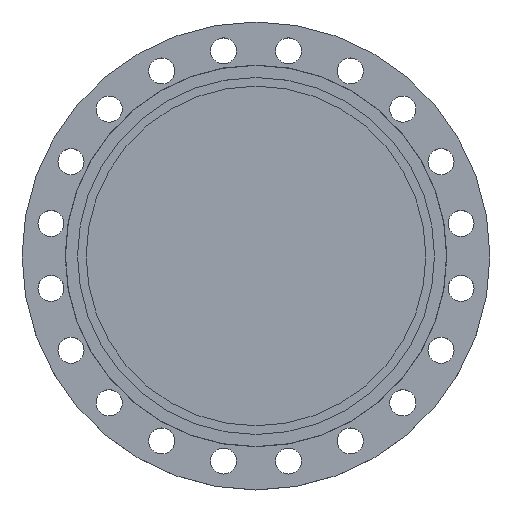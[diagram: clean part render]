
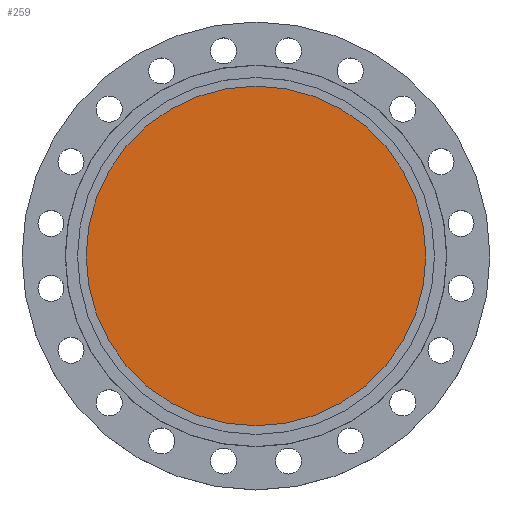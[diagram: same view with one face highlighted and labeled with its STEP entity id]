
A CAD part, top view. The second image highlights one B-rep face of the part: STEP entity #259.
In plain terms, the highlighted planar face has unit normal (0, 0, 1).
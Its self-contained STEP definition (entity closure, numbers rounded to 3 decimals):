
#192 = EDGE_CURVE ( 'NONE', #1786, #1806, #917, .T. ) ;
#247 = CARTESIAN_POINT ( 'NONE',  ( 274., 0., 0. ) ) ;
#259 = ADVANCED_FACE ( 'NONE', ( #789 ), #787, .T. ) ;
#273 = DIRECTION ( 'NONE',  ( 0., 0., -1. ) ) ;
#592 = AXIS2_PLACEMENT_3D ( 'NONE', #820, #818, #816 ) ;
#632 = AXIS2_PLACEMENT_3D ( 'NONE', #786, #785, #783 ) ;
#783 = DIRECTION ( 'NONE',  ( 1., 0., 0. ) ) ;
#785 = DIRECTION ( 'NONE',  ( 0., 0., 1. ) ) ;
#786 = CARTESIAN_POINT ( 'NONE',  ( 0., 0., 0. ) ) ;
#787 = PLANE ( 'NONE',  #632 ) ;
#789 = FACE_OUTER_BOUND ( 'NONE', #1002, .T. ) ;
#816 = DIRECTION ( 'NONE',  ( -1., 0., 0. ) ) ;
#818 = DIRECTION ( 'NONE',  ( 0., 0., -1. ) ) ;
#820 = CARTESIAN_POINT ( 'NONE',  ( 0., 0., 0. ) ) ;
#851 = CIRCLE ( 'NONE', #874, 274. ) ;
#874 = AXIS2_PLACEMENT_3D ( 'NONE', #1697, #273, #1103 ) ;
#917 = CIRCLE ( 'NONE', #592, 274. ) ;
#1002 = EDGE_LOOP ( 'NONE', ( #1772, #1779 ) ) ;
#1103 = DIRECTION ( 'NONE',  ( -1., 0., 0. ) ) ;
#1499 = CARTESIAN_POINT ( 'NONE',  ( -274., 0., 0. ) ) ;
#1697 = CARTESIAN_POINT ( 'NONE',  ( 0., 0., 0. ) ) ;
#1772 = ORIENTED_EDGE ( 'NONE', *, *, #1817, .F. ) ;
#1779 = ORIENTED_EDGE ( 'NONE', *, *, #192, .F. ) ;
#1786 = VERTEX_POINT ( 'NONE', #247 ) ;
#1806 = VERTEX_POINT ( 'NONE', #1499 ) ;
#1817 = EDGE_CURVE ( 'NONE', #1806, #1786, #851, .T. ) ;
